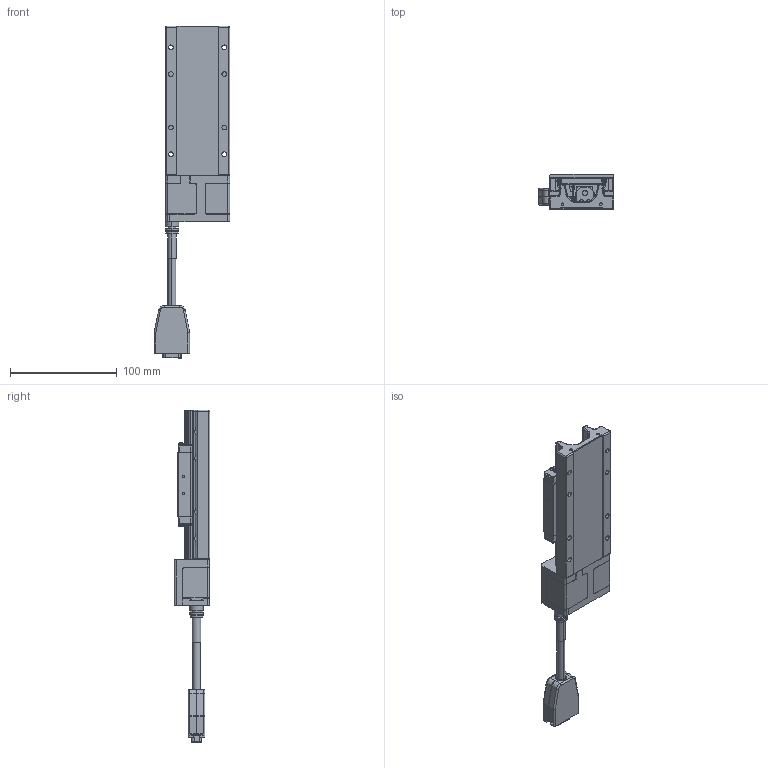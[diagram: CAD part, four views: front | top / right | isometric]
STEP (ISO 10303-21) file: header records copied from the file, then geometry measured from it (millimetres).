
FILE_DESCRIPTION (( 'STEP AP203' ), '1' );
FILE_NAME ('CXN6050-S2?N(µL°¨¹F).S', '2024-01-05T03:16:51', ( '' ), ( '' ), 'SwSTEP 2.0', 'SolidWorks 2019', '' );
FILE_SCHEMA (( 'CONFIG_CONTROL_DESIGN' ));
Products named in the file (3): Group2^CXN6050-S2?N(28框無馬達)_defeature_GMT; CXN6050-S2?N(無馬達); Group1^CXN6050-S2?N(28框無馬達)_defeature_GMT
Assembly tree (2 placements, depth 2):
  CXN6050-S2?N(無馬達)
    Group1^CXN6050-S2?N(28框無馬達)_defeature_GMT
    Group2^CXN6050-S2?N(28框無馬達)_defeature_GMT
Bounding box: 70.5 x 33.5 x 310.6 mm (x, y, z)
Volume: 39735.9 mm3; surface area: 97641.2 mm2
Topology: 28 solids, 31 shells, 4058 faces, 10284 edges, 6275 vertices
Faces by surface type: plane 1565, cylinder 1225, cone 507, torus 298, bspline 277, sphere 186
Entity records: 132534 total; most frequent: CARTESIAN_POINT 35196, DIRECTION 20926, ORIENTED_EDGE 20182, EDGE_CURVE 10091, AXIS2_PLACEMENT_3D 7854, VERTEX_POINT 6232, LINE 5218, VECTOR 5218
